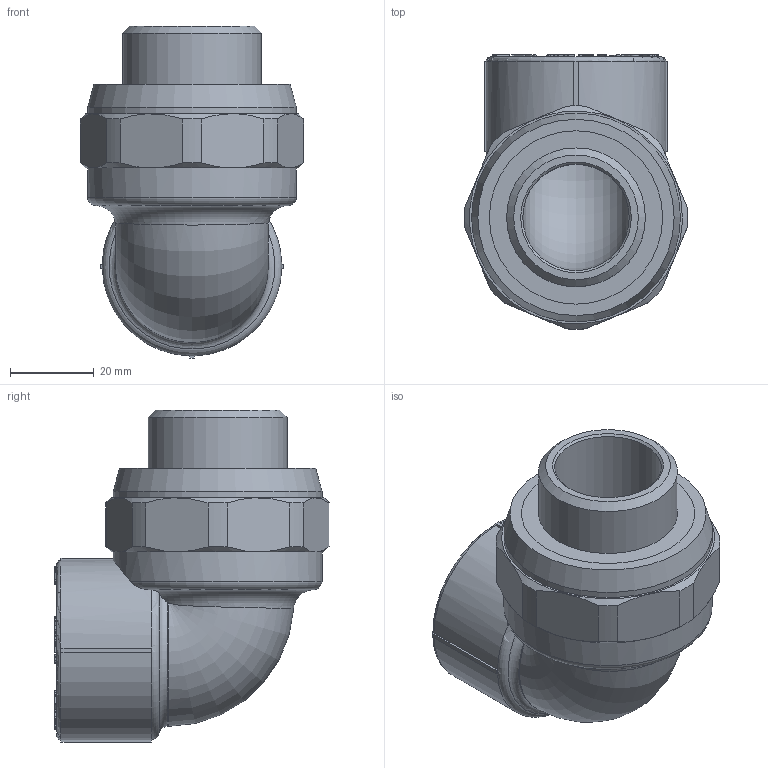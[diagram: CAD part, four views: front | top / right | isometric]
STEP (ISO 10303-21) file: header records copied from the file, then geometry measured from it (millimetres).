
FILE_DESCRIPTION(('STEP AP203'), '1');
FILE_NAME('ÂÐ.752212.041 - VTp.753.0.03206', '', ('UNSPECIFIED'), ('UNSPECIFIED'), 'C3D Converter', 'C3D Toolkit', '');
FILE_SCHEMA(('CONFIG_CONTROL_DESIGN'));
Length unit declared in the file: millimetre
Products named in the file (4): ВР.752212.041; ВР.302639.013.000; ВР.713751.003
Assembly tree (3 placements, depth 3):
  ВР.752212.041
    ВР.302639.013.000
      ВР.713751.003
      (unnamed)
Bounding box: 53.48 x 65.74 x 79.5 mm (x, y, z)
Volume: 79517.4 mm3; surface area: 34591.7 mm2
Topology: 3 solids, 3 shells, 696 faces, 1904 edges, 1261 vertices
Faces by surface type: extrusion 330, plane 305, cylinder 37, torus 13, cone 11
Full cylindrical faces by diameter (mm): 25.5 x3, 29.4 x2, 33.249 x1, 34 x2, 37.5 x6, 41.5 x8, 50 x2
Entity records: 23813 total; most frequent: CARTESIAN_POINT 7309, ORIENTED_EDGE 3720, DIRECTION 2396, EDGE_CURVE 1860, VECTOR 1344, VERTEX_POINT 1254, B_SPLINE_CURVE_WITH_KNOTS 1025, LINE 1014
